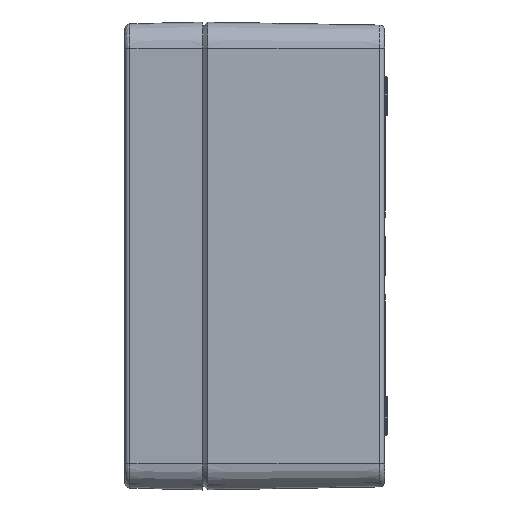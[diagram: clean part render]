
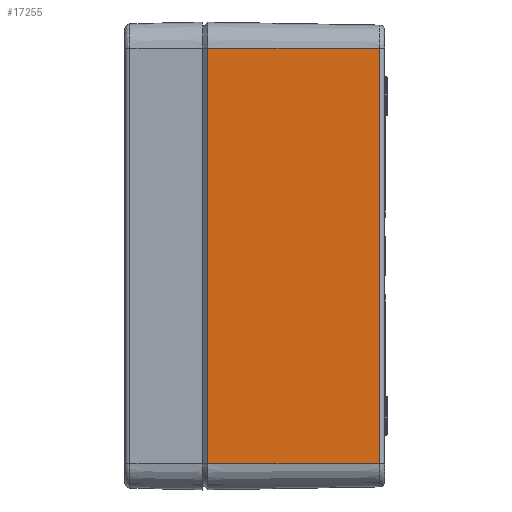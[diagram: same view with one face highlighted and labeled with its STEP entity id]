
A CAD part, left-side view. The second image highlights one B-rep face of the part: STEP entity #17255.
In plain terms, the highlighted planar face has unit normal (-1, -0.018, 0) as drawn and (1, 0.017, 0) by its records, which use the part's own axes.
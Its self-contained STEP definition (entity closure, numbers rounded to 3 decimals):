
#957 = EDGE_CURVE ( 'NONE', #60142, #30253, #20680, .T. ) ;
#1198 = LINE ( 'NONE', #14862, #21116 ) ;
#6473 = CARTESIAN_POINT ( 'NONE',  ( 88.912, 66.135, -95.34 ) ) ;
#6765 = ORIENTED_EDGE ( 'NONE', *, *, #26952, .F. ) ;
#8436 = AXIS2_PLACEMENT_3D ( 'NONE', #45573, #21148, #20301 ) ;
#9265 = B_SPLINE_CURVE_WITH_KNOTS ( 'NONE', 3,
 ( #30100, #19370, #9712, #34609 ),
 .UNSPECIFIED., .F., .F.,
 ( 4, 4 ),
 ( 0., 1. ),
 .UNSPECIFIED. ) ;
#9712 = CARTESIAN_POINT ( 'NONE',  ( 89.682, 22.045, -94.911 ) ) ;
#9908 = ORIENTED_EDGE ( 'NONE', *, *, #12422, .T. ) ;
#12153 = CARTESIAN_POINT ( 'NONE',  ( 90.067, 0., 65.089 ) ) ;
#12422 = EDGE_CURVE ( 'NONE', #60142, #33884, #1198, .T. ) ;
#14862 = CARTESIAN_POINT ( 'NONE',  ( 90.1, -1.898, 65.089 ) ) ;
#15323 = EDGE_CURVE ( 'NONE', #33884, #20692, #20078, .T. ) ;
#17255 = ADVANCED_FACE ( 'NONE', ( #53594 ), #35117, .T. ) ;
#19370 = CARTESIAN_POINT ( 'NONE',  ( 89.297, 44.09, -94.911 ) ) ;
#20078 = LINE ( 'NONE', #44966, #55305 ) ;
#20301 = DIRECTION ( 'NONE',  ( -0.017, 1., 0. ) ) ;
#20338 = DIRECTION ( 'NONE',  ( 0., 0., -1. ) ) ;
#20680 = LINE ( 'NONE', #6473, #44453 ) ;
#20692 = VERTEX_POINT ( 'NONE', #26140 ) ;
#21116 = VECTOR ( 'NONE', #58737, 1000. ) ;
#21148 = DIRECTION ( 'NONE',  ( 1., 0.017, 0. ) ) ;
#26140 = CARTESIAN_POINT ( 'NONE',  ( 90.067, 0., -94.911 ) ) ;
#26952 = EDGE_CURVE ( 'NONE', #30253, #20692, #9265, .T. ) ;
#29022 = ORIENTED_EDGE ( 'NONE', *, *, #957, .F. ) ;
#30100 = CARTESIAN_POINT ( 'NONE',  ( 88.912, 66.135, -94.911 ) ) ;
#30253 = VERTEX_POINT ( 'NONE', #41818 ) ;
#33884 = VERTEX_POINT ( 'NONE', #12153 ) ;
#34609 = CARTESIAN_POINT ( 'NONE',  ( 90.067, 0., -94.911 ) ) ;
#35117 = PLANE ( 'NONE',  #8436 ) ;
#41818 = CARTESIAN_POINT ( 'NONE',  ( 88.912, 66.135, -94.911 ) ) ;
#43200 = ORIENTED_EDGE ( 'NONE', *, *, #15323, .T. ) ;
#44453 = VECTOR ( 'NONE', #56292, 1000. ) ;
#44966 = CARTESIAN_POINT ( 'NONE',  ( 90.067, 0., 78.289 ) ) ;
#45179 = CARTESIAN_POINT ( 'NONE',  ( 88.912, 66.135, 65.089 ) ) ;
#45573 = CARTESIAN_POINT ( 'NONE',  ( 90.1, -1.898, 78.289 ) ) ;
#53594 = FACE_OUTER_BOUND ( 'NONE', #55790, .T. ) ;
#55305 = VECTOR ( 'NONE', #20338, 1000. ) ;
#55790 = EDGE_LOOP ( 'NONE', ( #9908, #43200, #6765, #29022 ) ) ;
#56292 = DIRECTION ( 'NONE',  ( 0., 0., -1. ) ) ;
#58737 = DIRECTION ( 'NONE',  ( 0.017, -1., 0. ) ) ;
#60142 = VERTEX_POINT ( 'NONE', #45179 ) ;
